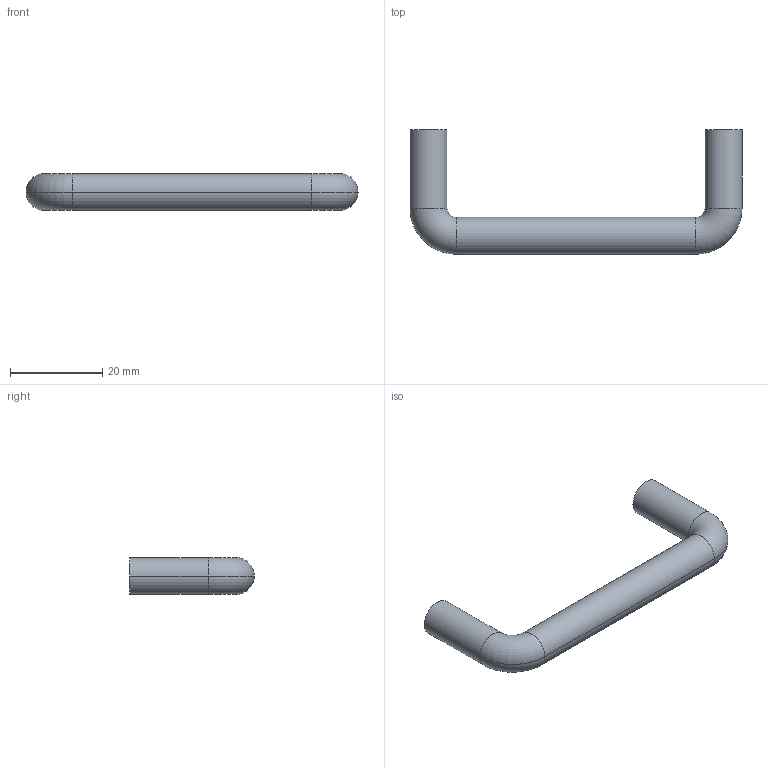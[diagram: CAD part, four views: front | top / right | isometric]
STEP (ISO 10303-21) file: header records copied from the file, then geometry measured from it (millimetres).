
FILE_DESCRIPTION( ( '' ), '1' );
FILE_NAME( 'C:/Documents and Settings/Sachin/Desktop/Sheet 10_1/stp/9070096.stp', '2013-10-22T08:20:58', ( '' ), ( '' ), ' ', ' ', ' ' );
FILE_SCHEMA( ( 'CONFIG_CONTROL_DESIGN' ) );
Length unit declared in the file: millimetre
Products named in the file (1): 1
Bounding box: 72 x 27 x 8 mm (x, y, z)
Volume: 5019 mm3; surface area: 2987 mm2
Topology: 1 solids, 1 shells, 18 faces, 34 edges, 20 vertices
Faces by surface type: cylinder 10, torus 4, plane 4
Entity records: 502 total; most frequent: DIRECTION 96, CARTESIAN_POINT 73, ORIENTED_EDGE 68, AXIS2_PLACEMENT_3D 43, EDGE_CURVE 34, CIRCLE 24, EDGE_LOOP 20, VERTEX_POINT 20
